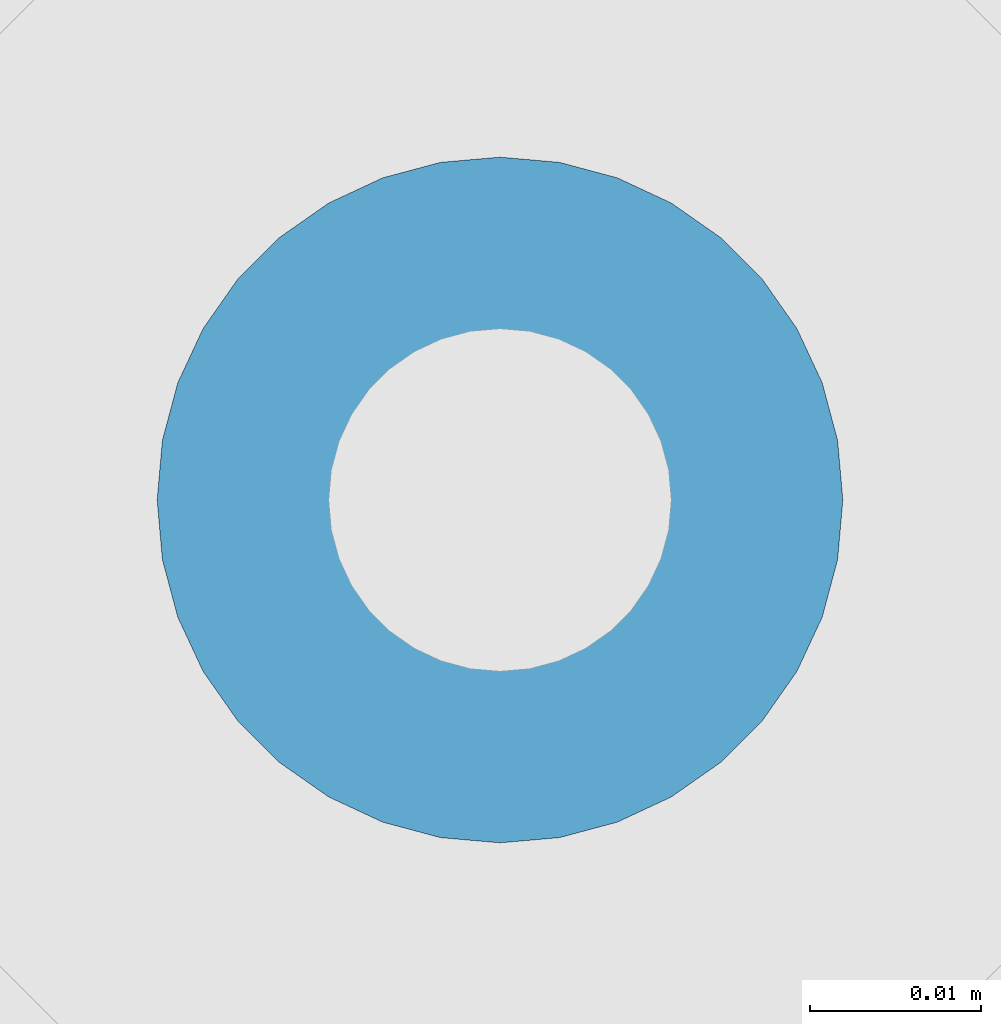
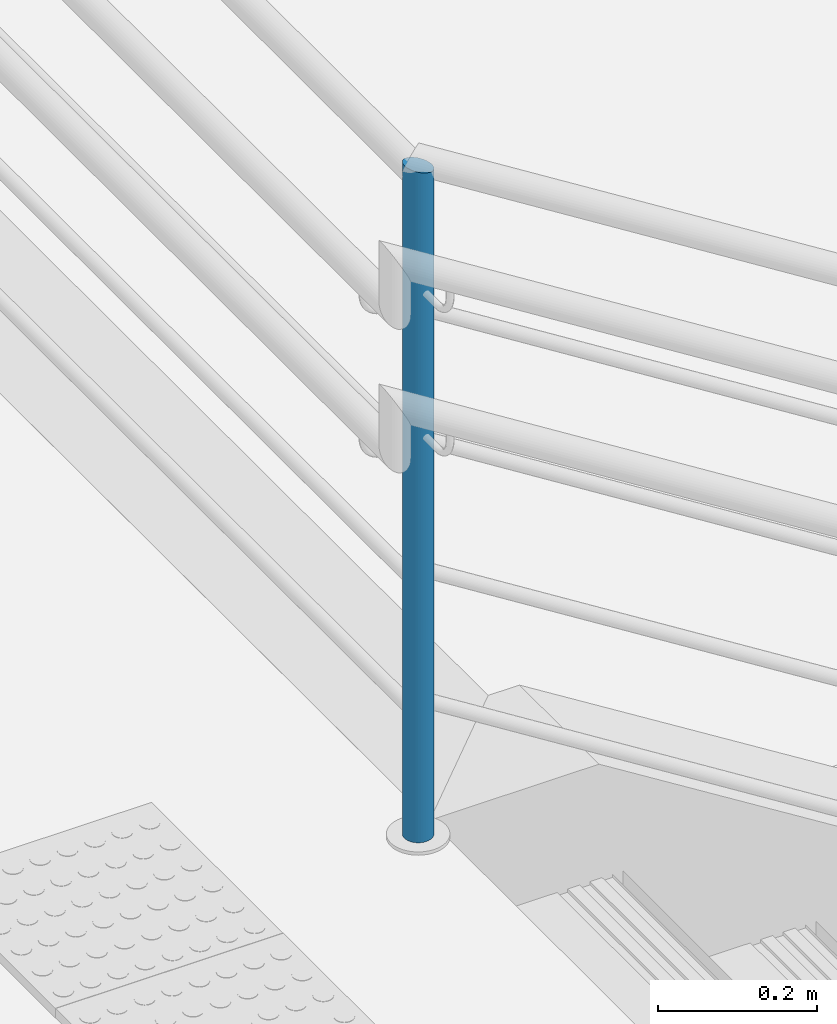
# One storey, part 74 of 237: 1 building element part, 1 element without a shape of its own.
"""IFC2X3 building model written with IfcOpenShell, lengths in millimetres."""

from ifc_helpers import new_model, entity, si_unit, converted_unit, derived_unit, money_unit, direction, frame, origin_with_axes, place, context, subcontext, project, spatial, faceted_brep, material, type_object, element, aggregate, save


model = new_model("IFC2X3")

# Units and contexts
model_context = context("Model", 3, precision=0.01, world=origin_with_axes(), true_north=direction((0.0, 1.0)))
body_context = subcontext(model_context, "Body", "Model", "MODEL_VIEW")
ifc_project = project(units=[si_unit("LENGTHUNIT", "METRE", prefix="MILLI"), si_unit("AREAUNIT", "SQUARE_METRE"), si_unit("VOLUMEUNIT", "CUBIC_METRE"), converted_unit("PLANEANGLEUNIT", "DEGREE", entity("IfcPlaneAngleMeasure", 0.0174532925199), si_unit("PLANEANGLEUNIT", "RADIAN"), dimensions=[0, 0, 0, 0, 0, 0, 0]), money_unit("USD"), converted_unit("TIMEUNIT", "Year", entity("IfcTimeMeasure", 31556926.0), si_unit("TIMEUNIT", "SECOND"), dimensions=[0, 0, 1, 0, 0, 0, 0]), si_unit("MASSUNIT", "GRAM", prefix="KILO"), si_unit("THERMODYNAMICTEMPERATUREUNIT", "DEGREE_CELSIUS"), si_unit("LUMINOUSINTENSITYUNIT", "LUMEN"), si_unit("ENERGYUNIT", "JOULE", prefix="MEGA"), derived_unit("THERMALCONDUCTANCEUNIT", [(si_unit("POWERUNIT", "WATT"), 1), (si_unit("LENGTHUNIT", "METRE"), -1), (si_unit("THERMODYNAMICTEMPERATUREUNIT", "KELVIN"), -1)]), derived_unit("SPECIFICHEATCAPACITYUNIT", [(si_unit("ENERGYUNIT", "JOULE"), 1), (si_unit("MASSUNIT", "GRAM", prefix="KILO"), -1), (si_unit("THERMODYNAMICTEMPERATUREUNIT", "KELVIN"), -1)]), derived_unit("MASSDENSITYUNIT", [(si_unit("MASSUNIT", "GRAM", prefix="KILO"), 1), (si_unit("VOLUMEUNIT", "CUBIC_METRE"), -1)])], contexts=[model_context])

# Site, building, storey
site_placement = place(None, origin_with_axes())
site = spatial("IfcSite", under=ifc_project, at=site_placement, Name="Local", CompositionType="ELEMENT")
building_placement = place(site_placement, origin_with_axes())
building = spatial("IfcBuilding", under=site, at=building_placement, Name="Construção", CompositionType="ELEMENT")
storey_placement = place(building_placement, origin_with_axes())
storey = spatial("IfcBuildingStorey", under=building, at=storey_placement, Name="Pavimento Térreo", CompositionType="ELEMENT", Elevation=0.0)

# Railing, building element part
railing_type = type_object("IfcRailingType", Name="Tipo de Guarda-Corpo", PredefinedType="NOTDEFINED")
railing_placement = place(storey_placement, frame((104000.0, 14000.0, -7099.22292764), z_axis=(0.0, 0.0, 1.0), x_axis=(1.0, 0.0, 0.0)))
railing = element("IfcRailing", 1, at=railing_placement, inside=storey, type_object=railing_type, Name="Guarda-Corpo - 001", PredefinedType="NOTDEFINED")
ifc_material = material(Name="Aço - Inoxidável")
building_element_part_placement = place(railing_placement, origin_with_axes())
building_element_part = element("IfcBuildingElementPart", 2, at=building_element_part_placement, material=ifc_material, Name="Aço - Inoxidável", context=body_context, shape_type="Brep", body=[
    faceted_brep([(-3772.4242479, 774.193719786, 2122.17976629), (-3775.89721364, 774.497539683, 2122.17976629), (-3775.89721364, 774.497539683, 3147.17976629), (-3772.4242479, 774.193719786, 3146.17938288), (-3779.370175, 774.193669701, 2122.17976629), (-3769.05680208, 773.291441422, 2122.17976629), (-3765.89719432, 771.818119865, 2122.17976629), (-3763.04142771, 769.818521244, 2122.17976629), (-3760.57627326, 767.35340235, 2122.17976629), (-3758.57663346, 764.497664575, 2122.17976629), (-3757.10326634, 761.338078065, 2122.17976629), (-3756.20093941, 757.970645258, 2122.17976629), (-3755.89706943, 754.497683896, 2122.17976629), (-3756.20088933, 751.024718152, 2122.17976629), (-3757.10316769, 747.657272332, 2122.17976629), (-3758.57648925, 744.497664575, 2122.17976629), (-3760.57608787, 741.641897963, 2122.17976629), (-3763.04120676, 739.17674352, 2122.17976629), (-3765.89694454, 737.177103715, 2122.17976629), (-3769.05653105, 735.703736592, 2122.17976629), (-3772.42396385, 734.801409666, 2122.17976629), (-3775.89692522, 734.497539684, 2122.17976629), (-3779.36989096, 734.801359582, 2122.17976629), (-3782.73733678, 735.703637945, 2122.17976629), (-3785.89694454, 737.176959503, 2122.17976629), (-3788.75271115, 739.176558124, 2122.17976629), (-3791.21786559, 741.641677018, 2122.17976629), (-3793.2175054, 744.497414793, 2122.17976629), (-3794.69087252, 747.657001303, 2122.17976629), (-3795.59319945, 751.02443411, 2122.17976629), (-3795.89706943, 754.497395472, 2122.17976629), (-3795.59324953, 757.970361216, 2122.17976629), (-3794.69097117, 761.337807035, 2122.17976629), (-3793.21764961, 764.497414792, 2122.17976629), (-3791.21805099, 767.353181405, 2122.17976629), (-3788.75293209, 769.818335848, 2122.17976629), (-3785.89719432, 771.817975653, 2122.17976629), (-3782.73760781, 773.291342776, 2122.17976629), (-3779.370175, 774.193669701, 3148.1801497), (-3756.20088933, 751.024718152, 3141.50631004), (-3755.89706943, 754.497683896, 3141.41878783), (-3756.20093941, 757.970645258, 3141.50631004), (-3757.10326634, 761.338078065, 3141.76621734), (-3758.57663346, 764.497664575, 3142.19061259), (-3760.57627326, 767.35340235, 3142.76660075), (-3763.04142771, 769.818521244, 3143.47668072), (-3765.89719432, 771.818119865, 3144.29927706), (-3769.05680208, 773.291441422, 3145.20939561), (-3782.73760781, 773.291342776, 3149.15013696), (-3785.89719432, 771.817975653, 3150.06025552), (-3788.75293209, 769.818335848, 3150.88285186), (-3791.21805099, 767.353181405, 3151.59293182), (-3793.21764961, 764.497414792, 3152.16891998), (-3794.69097117, 761.337807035, 3152.59331523), (-3795.59324953, 757.970361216, 3152.85322254), (-3795.89706943, 754.497395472, 3152.94074474), (-3795.59319945, 751.02443411, 3152.85322254), (-3794.69087252, 747.657001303, 3152.59331523), (-3793.2175054, 744.497414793, 3152.16891998), (-3791.21786559, 741.641677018, 3151.59293182), (-3788.75271115, 739.176558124, 3150.88285186), (-3785.89694454, 737.176959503, 3150.06025552), (-3782.73733678, 735.703637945, 3149.15013696), (-3779.36989096, 734.801359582, 3148.1801497), (-3775.89692522, 734.497539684, 3147.17976629), (-3772.42396385, 734.801409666, 3146.17938288), (-3769.05653105, 735.703736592, 3145.20939561), (-3765.89694454, 737.177103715, 3144.29927706), (-3763.04120676, 739.17674352, 3143.47668072), (-3760.57608787, 741.641897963, 3142.76660075), (-3758.57648925, 744.497664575, 3142.19061259), (-3757.10316769, 747.657272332, 3141.76621734)], [[[0, 1, 2, 3]], [[4, 1, 0, 5, 6, 7, 8, 9, 10, 11, 12, 13, 14, 15, 16, 17, 18, 19, 20, 21, 22, 23, 24, 25, 26, 27, 28, 29, 30, 31, 32, 33, 34, 35, 36, 37]], [[1, 4, 38, 2]], [[39, 40, 41, 42, 43, 44, 45, 46, 47, 3, 2, 38, 48, 49, 50, 51, 52, 53, 54, 55, 56, 57, 58, 59, 60, 61, 62, 63, 64, 65, 66, 67, 68, 69, 70, 71]], [[5, 0, 3, 47]], [[6, 5, 47, 46]], [[7, 6, 46, 45]], [[8, 7, 45, 44]], [[9, 8, 44, 43]], [[10, 9, 43, 42]], [[11, 10, 42, 41]], [[12, 11, 41, 40]], [[13, 12, 40, 39]], [[14, 13, 39, 71]], [[15, 14, 71, 70]], [[16, 15, 70, 69]], [[17, 16, 69, 68]], [[18, 17, 68, 67]], [[19, 18, 67, 66]], [[20, 19, 66, 65]], [[21, 20, 65, 64]], [[22, 21, 64, 63]], [[23, 22, 63, 62]], [[24, 23, 62, 61]], [[25, 24, 61, 60]], [[26, 25, 60, 59]], [[27, 26, 59, 58]], [[28, 27, 58, 57]], [[29, 28, 57, 56]], [[30, 29, 56, 55]], [[31, 30, 55, 54]], [[32, 31, 54, 53]], [[33, 32, 53, 52]], [[34, 33, 52, 51]], [[35, 34, 51, 50]], [[36, 35, 50, 49]], [[37, 36, 49, 48]], [[4, 37, 48, 38]]]),
])
aggregate(railing, [building_element_part])

save(model, "model.ifc")
